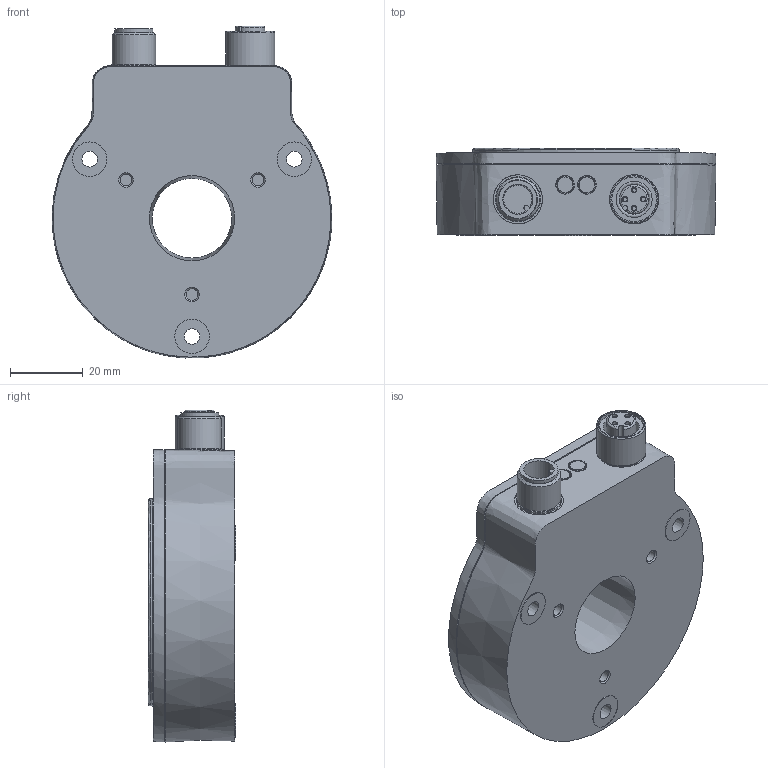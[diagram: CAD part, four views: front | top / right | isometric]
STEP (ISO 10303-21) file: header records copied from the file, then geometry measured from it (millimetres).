
FILE_DESCRIPTION (( 'STEP AP203' ), '1' );
FILE_NAME ('Ri-QR24-X2-2H1.step', '2018-09-13T20:02:30', ( '' ), ( '' ), 'SwSTEP 2.0', 'SolidWorks 2017', '' );
FILE_SCHEMA (( 'CONFIG_CONTROL_DESIGN' ));
Length unit declared in the file: millimetre
Products named in the file (1): Ri-QR24-X2-2H1
Bounding box: 76.96 x 24 x 91.36 mm (x, y, z)
Volume: 106627.1 mm3; surface area: 19549.5 mm2
Topology: 1 solids, 1 shells, 110 faces, 236 edges, 164 vertices
Faces by surface type: plane 47, cylinder 35, cone 17, bspline 11
Full cylindrical faces by diameter (mm): 1.15 x4, 1.5 x4, 3.242 x3, 4.7 x2, 5.1 x2, 8.125 x1, 8.3 x1, 9.5 x3, 9.917 x1, 10.5 x1, 12 x1, 12.3 x1, 12.4 x1, 13.5 x3
Entity records: 4296 total; most frequent: CARTESIAN_POINT 2106, DIRECTION 436, ORIENTED_EDGE 332, EDGE_LOOP 208, AXIS2_PLACEMENT_3D 197, EDGE_CURVE 166, VERTEX_POINT 148, FACE_OUTER_BOUND 147
